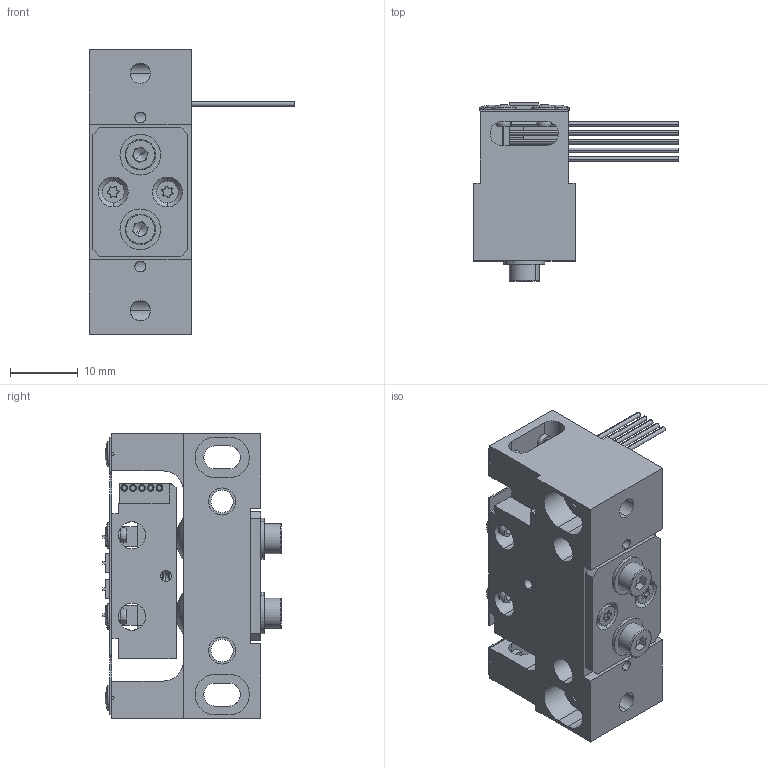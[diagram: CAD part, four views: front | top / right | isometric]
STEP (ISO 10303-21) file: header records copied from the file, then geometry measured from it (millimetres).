
FILE_DESCRIPTION (( 'STEP AP214' ), '1' );
FILE_NAME ('LS1510B-B15-PiezoMotor.STEP', '2017-06-02T13:35:01', ( '' ), ( '' ), 'SwSTEP 2.0', 'SolidWorks 2016', '' );
FILE_SCHEMA (( 'AUTOMOTIVE_DESIGN' ));
Length unit declared in the file: millimetre
Products named in the file (2): LS1510B-B15-PiezoMotor
Bounding box: 30.25 x 26.3 x 42 mm (x, y, z)
Volume: 9457.9 mm3; surface area: 10736.5 mm2
Topology: 33 solids, 33 shells, 652 faces, 1649 edges, 1062 vertices
Faces by surface type: plane 286, cylinder 274, cone 44, torus 24, sphere 20, bspline 4
Entity records: 23680 total; most frequent: CARTESIAN_POINT 6975, DIRECTION 3571, ORIENTED_EDGE 3274, EDGE_CURVE 1637, AXIS2_PLACEMENT_3D 1344, VERTEX_POINT 1062, VECTOR 883, LINE 883
